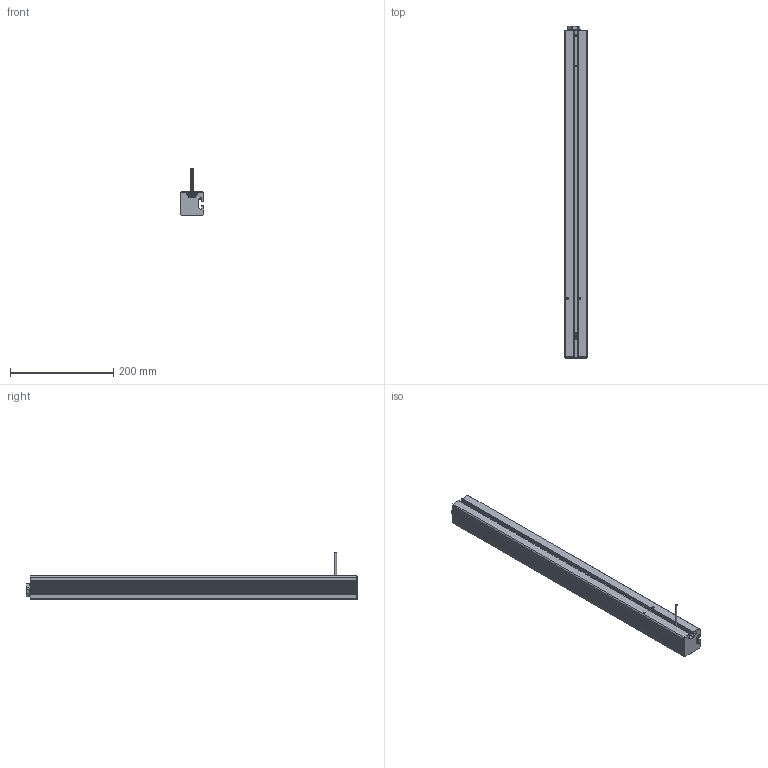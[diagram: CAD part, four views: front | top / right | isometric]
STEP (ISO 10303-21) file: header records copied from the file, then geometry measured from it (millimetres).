
FILE_DESCRIPTION(/* description */ ('Unknown'),/* implementation_level */ '2;1');
FILE_NAME(/* name */ '306.00454_04_eingefahren',/* time_stamp */ '2019-06-20T13:51:55+02:00',/* author */ ('Unknown'),/* organization */ ('Unknown'),/* preprocessor_version */ 'ST-DEVELOPER v16.7',/* originating_system */ 'DEX',/* authorisation */ $);
FILE_SCHEMA (('AUTOMOTIVE_DESIGN {1 0 10303 214 3 1 1}'));
Length unit declared in the file: millimetre
Products named in the file (13): 306.00454; 142.00014; 119.00224; 122.00005; 142.00020; 113.00002_70mm; 124.00125; 128.00040; 106.00424_oa_0; 109.00404_oa_1; 115.00008_oa_2; 123.00104; 125.00051
Assembly tree (16 placements, depth 4):
  306.00454
    142.00014  x2
    119.00224
    122.00005
    142.00020  x4
    113.00002_70mm
    124.00125
    128.00040
    106.00424_oa_0
      109.00404_oa_1
        115.00008_oa_2
      123.00104
      125.00051
Bounding box: 45 x 642 x 90 mm (x, y, z)
Volume: 534436.5 mm3; surface area: 444557.3 mm2
Topology: 13 solids, 13 shells, 1253 faces, 3595 edges, 2312 vertices
Faces by surface type: cylinder 583, plane 517, bspline 44, torus 42, cone 39, sphere 28
Full cylindrical faces by diameter (mm): 2.2 x1, 2.5 x12, 3 x4, 4 x10, 6.647 x1, 8 x1, 8.376 x2, 11.5 x1, 16 x1, 17.3 x1, 19 x1, 20.8 x3, 21 x1, 24 x1, 25 x4, 30 x2
Entity records: 41206 total; most frequent: CARTESIAN_POINT 8992, ORIENTED_EDGE 6794, DIRECTION 6584, EDGE_CURVE 3397, AXIS2_PLACEMENT_3D 2364, VERTEX_POINT 2231, LINE 1856, VECTOR 1856
